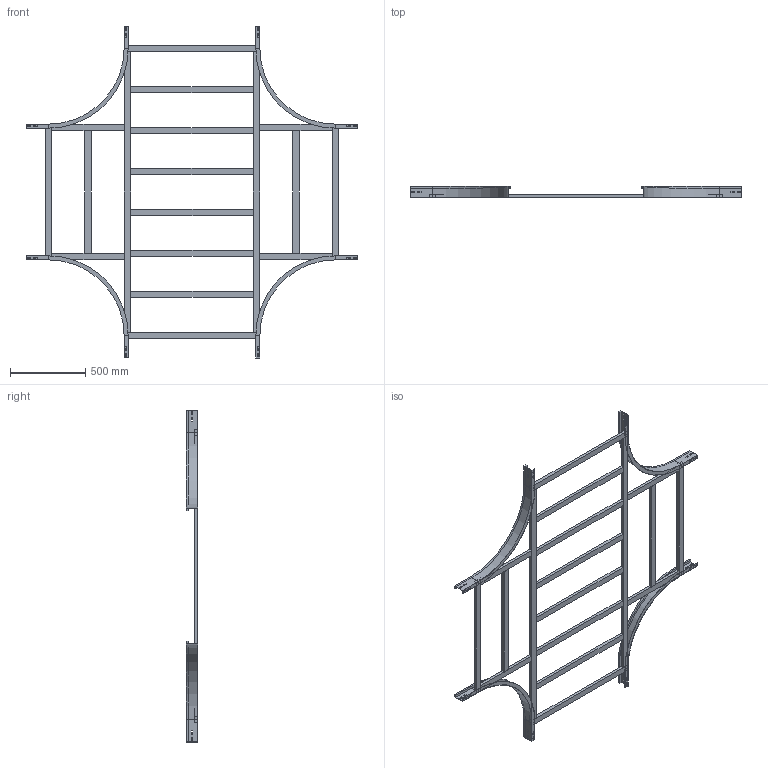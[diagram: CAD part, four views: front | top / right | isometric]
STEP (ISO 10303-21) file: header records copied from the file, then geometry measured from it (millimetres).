
FILE_DESCRIPTION (( 'STEP AP214' ), '1' );
FILE_NAME ('17B5C900.step', '2025-02-21T15:58:19', ( '' ), ( '' ), 'SwSTEP 2.0', 'SolidWorks 2023', '' );
FILE_SCHEMA (( 'AUTOMOTIVE_DESIGN' ));
Length unit declared in the file: millimetre
Products named in the file (7): TRAVERSINO_900; TRAVERSINO_LONG._R500+900; LONGH.INTERNO 90°_H75_R500; TRAVERSINO_VERT_R500; TRAVERSINO_INTERMEDIO_R500+900; TRAVERSINO_COPPIA_900; 17B5C900
Assembly tree (22 placements, depth 2):
  17B5C900
    LONGH.INTERNO 90°_H75_R500  x4
    TRAVERSINO_900  x4
    TRAVERSINO_LONG._R500+900  x2
    TRAVERSINO_INTERMEDIO_R500+900  x6
    TRAVERSINO_VERT_R500  x4
    TRAVERSINO_COPPIA_900  x2
Bounding box: 2200 x 75 x 2200 mm (x, y, z)
Volume: 14467109.8 mm3; surface area: 2965571.9 mm2
Topology: 22 solids, 22 shells, 340 faces, 824 edges, 528 vertices
Faces by surface type: plane 324, cylinder 16
Entity records: 2876 total; most frequent: CARTESIAN_POINT 461, DIRECTION 446, ORIENTED_EDGE 424, EDGE_CURVE 212, LINE 204, VECTOR 204, VERTEX_POINT 136, AXIS2_PLACEMENT_3D 121
